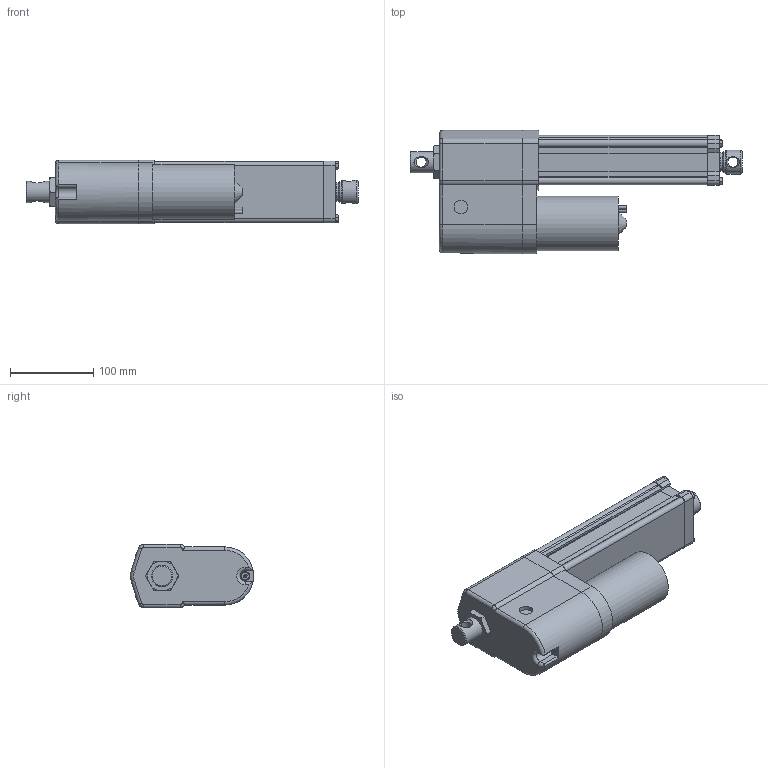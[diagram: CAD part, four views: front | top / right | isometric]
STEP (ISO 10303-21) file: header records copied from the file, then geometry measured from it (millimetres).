
FILE_DESCRIPTION( ( 'STEP AP203' ), '1' );
FILE_NAME( 'p:/temp/worker_280/temp/exporttempdir_4908_1656_1QaUT/format_0/DA24-21B65M10M0NPO-AMM.stp', '2020-04-12T18:21:12', ( 'License CC BY-ND 4.0' ), ( 'CADENAS' ), ' ', 'PARTsolutions', ' ' );
FILE_SCHEMA( ( 'CONFIG_CONTROL_DESIGN' ) );
Length unit declared in the file: millimetre
Products named in the file (8): DA24-21B65M10M0NPO-AMM; _ELECTRAK-LA14-DA24-21B65MM0NPO-10M-EU-REAR; _Electrak-10-EU-RA-D602700; _D602768eu; _ELECTRAK-LA14-DA24--MOTOR; _DA24-21B65M10M0NPOAMMtube; _ELECTRAK-LA14-DA24--10-PLATE; _ELECTRAK-LA14-DA24--1021B65MNPOM-ROD
Assembly tree (7 placements, depth 2):
  DA24-21B65M10M0NPO-AMM
    _ELECTRAK-LA14-DA24-21B65MM0NPO-10M-EU-REAR
    _Electrak-10-EU-RA-D602700
    _D602768eu
    _ELECTRAK-LA14-DA24--MOTOR
    _DA24-21B65M10M0NPOAMMtube
    _ELECTRAK-LA14-DA24--10-PLATE
    _ELECTRAK-LA14-DA24--1021B65MNPOM-ROD
Bounding box: 398.95 x 148 x 76.2 mm (x, y, z)
Volume: 1897268.5 mm3; surface area: 288654.4 mm2
Topology: 7 solids, 8 shells, 378 faces, 942 edges, 611 vertices
Faces by surface type: plane 184, cylinder 131, cone 45, torus 14, bspline 4
Full cylindrical faces by diameter (mm): 4 x2, 4.126 x1, 4.8 x5, 5 x5, 5.6 x4, 7.878 x4, 9.398 x1, 12.2 x2, 16 x1, 16.5 x1, 21.8 x1, 25.2 x1, 25.4 x1, 26.24 x1, 28.5 x1, 28.6 x2, 47.625 x1, 65.3 x1
Entity records: 11834 total; most frequent: CARTESIAN_POINT 2729, DIRECTION 1869, ORIENTED_EDGE 1744, EDGE_CURVE 872, AXIS2_PLACEMENT_3D 702, VERTEX_POINT 602, EDGE_LOOP 485, LINE 465
